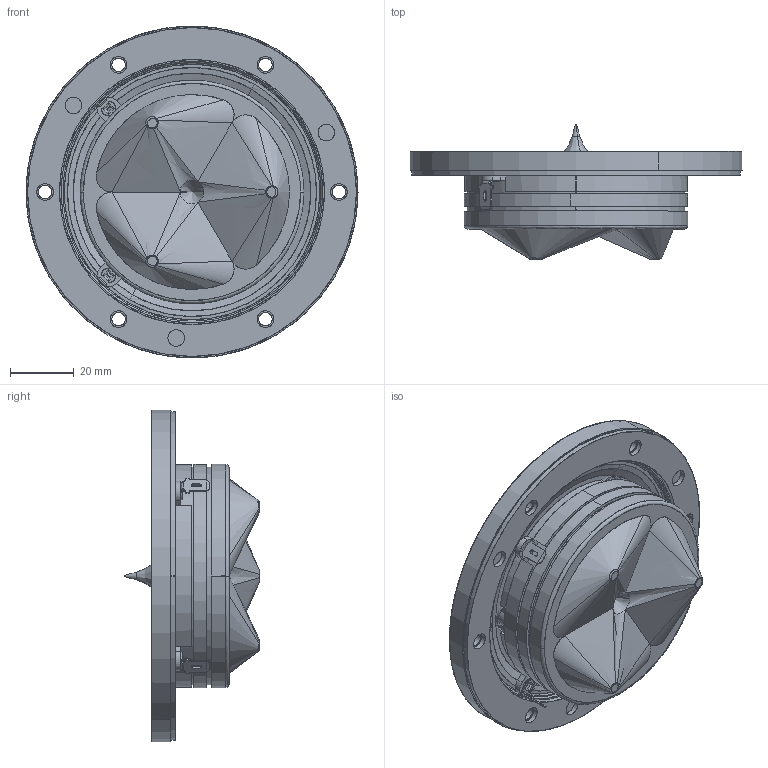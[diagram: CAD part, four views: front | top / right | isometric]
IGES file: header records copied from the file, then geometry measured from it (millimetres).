
Start section: SolidWorks IGES file using analytic representation for surfaces
Global section: file name: W:\TT\R29\R2904-700000.IGS; native system: SolidWorks 2019; preprocessor: SolidWorks 2019; author: mhn; date: 201124.094618; units: millimetre
Bounding box: 104 x 42.21 x 104 mm (x, y, z)
Surface area: 34662.9 mm2 (no closed solid volume)
Topology: 0 solids, 0 shells, 426 faces, 7562 edges, 7552 vertices
Faces by surface type: bspline 226, revolution 200
